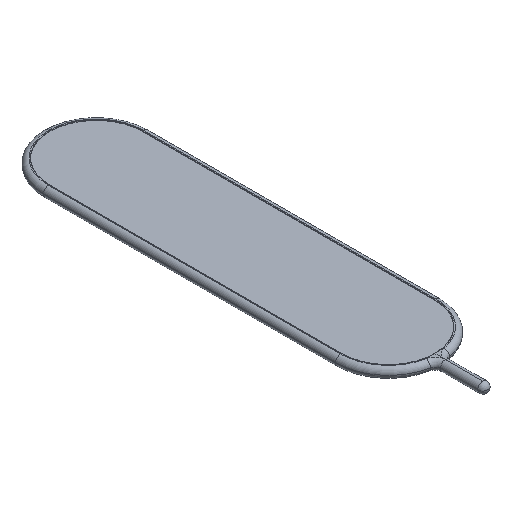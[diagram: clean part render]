
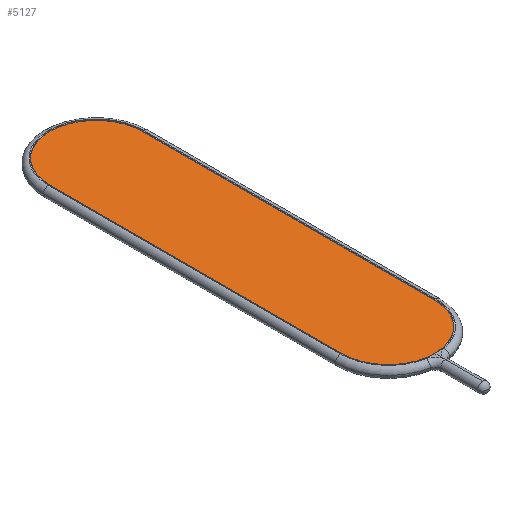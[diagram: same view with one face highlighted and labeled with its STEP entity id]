
A CAD part, isometric view. The second image highlights one B-rep face of the part: STEP entity #5127.
In plain terms, the highlighted planar face has unit normal (0, 0, 1).
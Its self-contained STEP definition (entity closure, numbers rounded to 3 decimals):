
#371 = VERTEX_POINT ( 'NONE', #5495 ) ;
#569 = CARTESIAN_POINT ( 'NONE',  ( -146., 1234., 15. ) ) ;
#617 = VERTEX_POINT ( 'NONE', #630 ) ;
#630 = CARTESIAN_POINT ( 'NONE',  ( 146., 1234., 15. ) ) ;
#763 = CIRCLE ( 'NONE', #1213, 146. ) ;
#999 = DIRECTION ( 'NONE',  ( 1., 0., 0. ) ) ;
#1167 = EDGE_CURVE ( 'NONE', #4017, #617, #5268, .T. ) ;
#1213 = AXIS2_PLACEMENT_3D ( 'NONE', #4876, #4846, #999 ) ;
#1279 = CARTESIAN_POINT ( 'NONE',  ( 146., 314., 15. ) ) ;
#1298 = DIRECTION ( 'NONE',  ( 0., 0., 1. ) ) ;
#1317 = VECTOR ( 'NONE', #4782, 1000. ) ;
#1681 = VECTOR ( 'NONE', #2897, 1000. ) ;
#1697 = LINE ( 'NONE', #5078, #1681 ) ;
#1701 = PLANE ( 'NONE',  #1762 ) ;
#1762 = AXIS2_PLACEMENT_3D ( 'NONE', #5137, #2073, #2015 ) ;
#2015 = DIRECTION ( 'NONE',  ( 1., 0., 0. ) ) ;
#2044 = FACE_OUTER_BOUND ( 'NONE', #5446, .T. ) ;
#2073 = DIRECTION ( 'NONE',  ( 0., 0., 1. ) ) ;
#2897 = DIRECTION ( 'NONE',  ( 0., -1., 0. ) ) ;
#2936 = ORIENTED_EDGE ( 'NONE', *, *, #1167, .T. ) ;
#3112 = VERTEX_POINT ( 'NONE', #569 ) ;
#3324 = CIRCLE ( 'NONE', #5241, 146. ) ;
#3813 = CARTESIAN_POINT ( 'NONE',  ( 0., 1234., 15. ) ) ;
#3947 = CARTESIAN_POINT ( 'NONE',  ( 146., 314., 15. ) ) ;
#4017 = VERTEX_POINT ( 'NONE', #3947 ) ;
#4269 = DIRECTION ( 'NONE',  ( 1., 0., 0. ) ) ;
#4351 = EDGE_CURVE ( 'NONE', #371, #4017, #763, .T. ) ;
#4685 = EDGE_CURVE ( 'NONE', #617, #3112, #3324, .T. ) ;
#4782 = DIRECTION ( 'NONE',  ( 0., 1., 0. ) ) ;
#4843 = ORIENTED_EDGE ( 'NONE', *, *, #4685, .T. ) ;
#4846 = DIRECTION ( 'NONE',  ( 0., 0., 1. ) ) ;
#4876 = CARTESIAN_POINT ( 'NONE',  ( 0., 314., 15. ) ) ;
#5078 = CARTESIAN_POINT ( 'NONE',  ( -146., 314., 15. ) ) ;
#5127 = ADVANCED_FACE ( 'NONE', ( #2044 ), #1701, .T. ) ;
#5137 = CARTESIAN_POINT ( 'NONE',  ( 0., 314., 15. ) ) ;
#5241 = AXIS2_PLACEMENT_3D ( 'NONE', #3813, #1298, #4269 ) ;
#5268 = LINE ( 'NONE', #1279, #1317 ) ;
#5299 = ORIENTED_EDGE ( 'NONE', *, *, #4351, .T. ) ;
#5305 = ORIENTED_EDGE ( 'NONE', *, *, #5585, .T. ) ;
#5446 = EDGE_LOOP ( 'NONE', ( #5299, #2936, #4843, #5305 ) ) ;
#5495 = CARTESIAN_POINT ( 'NONE',  ( -146., 314., 15. ) ) ;
#5585 = EDGE_CURVE ( 'NONE', #3112, #371, #1697, .T. ) ;
